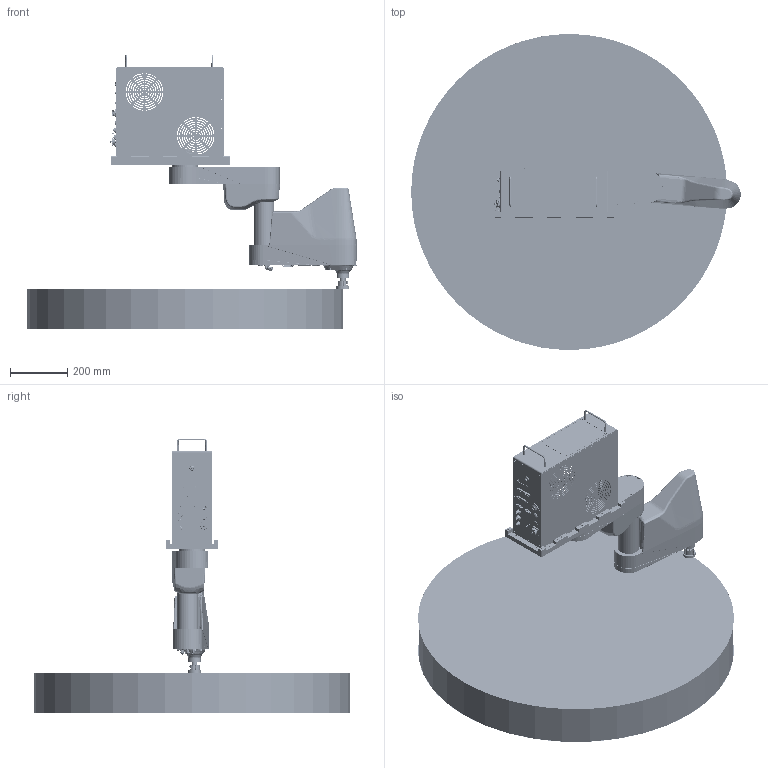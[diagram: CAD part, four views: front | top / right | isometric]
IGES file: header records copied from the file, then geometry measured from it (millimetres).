
Start section: SolidWorks IGES file using analytic representation for surfaces
Global section: file name: \\192.168.2.238\Share\03研发部\50-Robot\10-SCARA\180-PG6X\10-Design\02-Mechanical\21-外发模型\03_对外输出\V1.0.2\IGS\PG6X-0550-1544-1400_V1.0.2.IGS; native system: SolidWorks 2017; preprocessor: SolidWorks 2017; author: 0228; date: 230829.170754; units: millimetre
Bounding box: 1147.44 x 1100 x 956.75 mm (x, y, z)
Surface area: 4155094.3 mm2 (no closed solid volume)
Topology: 0 solids, 0 shells, 5538 faces, 96755 edges, 96549 vertices
Faces by surface type: revolution 3662, bspline 1876
